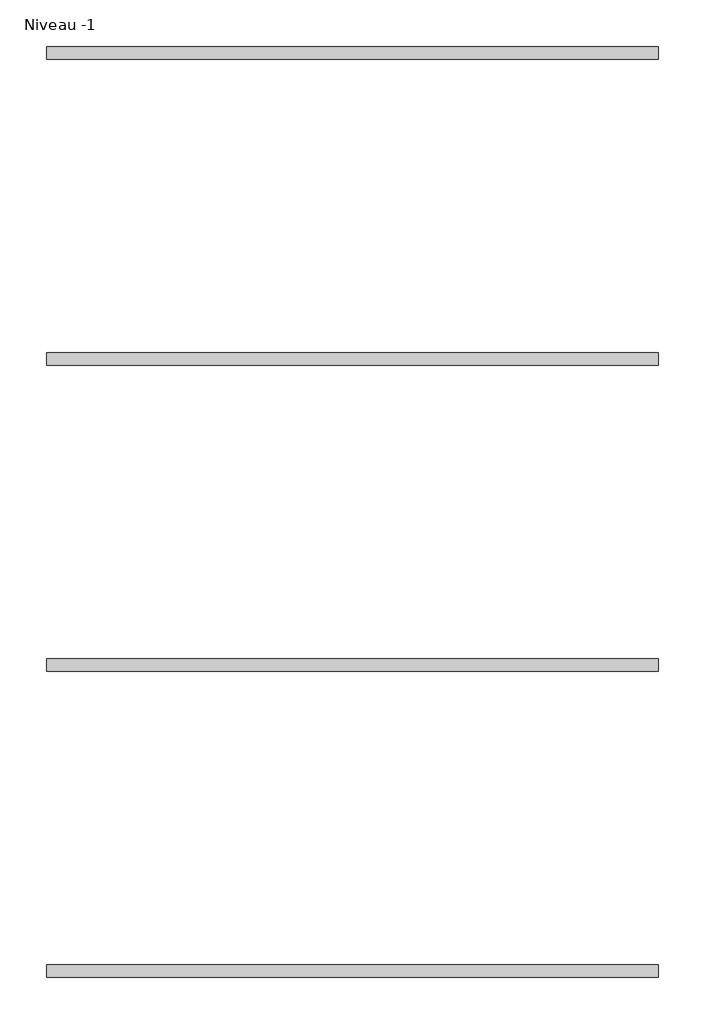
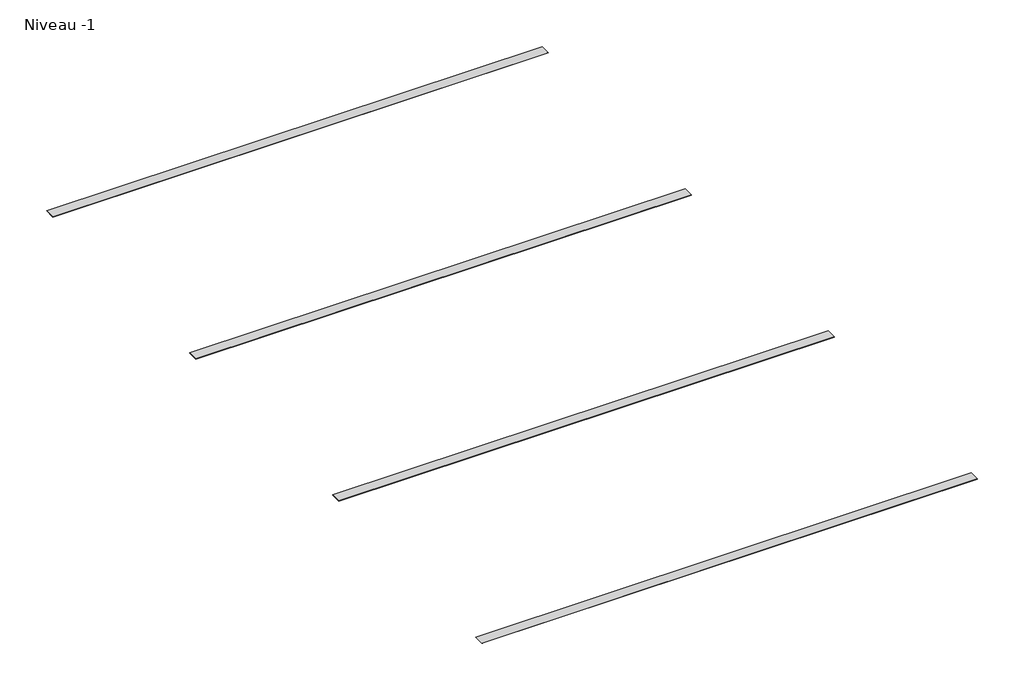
# One storey: 4 proxies.
"""IFC4 building model written with IfcOpenShell, lengths in millimetres."""

from ifc_helpers import new_model, si_unit, origin, place, context, project, spatial, transform, mapped, element, save
from components import place_de_parking_2b7ae786

model = new_model("IFC4")

# Units and contexts
model_context = context("Model", 3, world=origin())
ifc_project = project(units=[si_unit("LENGTHUNIT", "METRE", prefix="MILLI")], contexts=[model_context])

# Site, building, storey
site = spatial("IfcSite", under=ifc_project)
building = spatial("IfcBuilding", under=site)
storey = spatial("IfcBuildingStorey", under=building, Name="Niveau -1", Elevation=-3000.0)

# Proxies
placement = place(None, origin())
place_de_parking_shape = place_de_parking_2b7ae786(model_context)
element("IfcBuildingElementProxy", 1, Name="Place de parking : 4,8m x 2,4m - 90°", ObjectType="Place de parking : 4,8m x 2,4m - 90°", at=placement, inside=storey, context=model_context, shape_type="MappedRepresentation", body=[
    mapped(place_de_parking_shape, transform((-11527.0615555, 5242.0061152, -3000.0), x_axis=(0.0, -1.0000000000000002, 0.0), y_axis=(1.0000000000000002, 0.0, 0.0), z_axis=(0.0, 0.0, 1.0))),
])
element("IfcBuildingElementProxy", 2, Name="Place de parking : 4,8m x 2,4m - 90°", ObjectType="Place de parking : 4,8m x 2,4m - 90°", at=placement, inside=storey, context=model_context, shape_type="MappedRepresentation", body=[
    mapped(place_de_parking_shape, transform((-11527.0615555, 2842.0061152, -3000.0), x_axis=(0.0, -1.0000000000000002, 0.0), y_axis=(1.0000000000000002, 0.0, 0.0), z_axis=(0.0, 0.0, 1.0))),
])
element("IfcBuildingElementProxy", 3, Name="Place de parking : 4,8m x 2,4m - 90°", ObjectType="Place de parking : 4,8m x 2,4m - 90°", at=placement, inside=storey, context=model_context, shape_type="MappedRepresentation", body=[
    mapped(place_de_parking_shape, transform((-11527.0615555, 442.0061152, -3000.0), x_axis=(0.0, -1.0000000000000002, 0.0), y_axis=(1.0000000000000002, 0.0, 0.0), z_axis=(0.0, 0.0, 1.0))),
])
element("IfcBuildingElementProxy", 4, Name="Place de parking : 4,8m x 2,4m - 90°", ObjectType="Place de parking : 4,8m x 2,4m - 90°", at=placement, inside=storey, context=model_context, shape_type="MappedRepresentation", body=[
    mapped(place_de_parking_shape, transform((-11527.0615555, -1957.9938848, -3000.0), x_axis=(0.0, -1.0000000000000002, 0.0), y_axis=(1.0000000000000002, 0.0, 0.0), z_axis=(0.0, 0.0, 1.0))),
])

save(model, "model.ifc")
